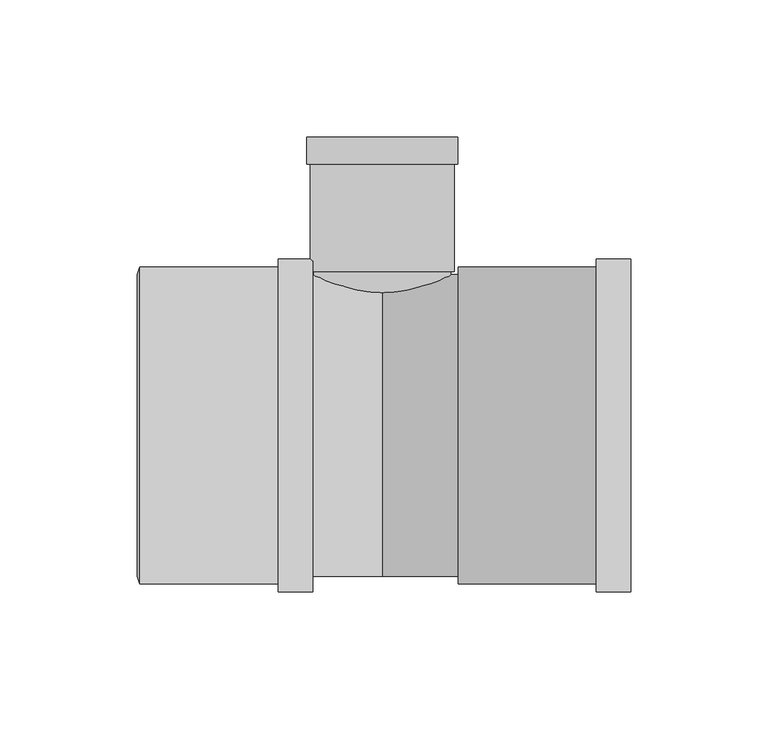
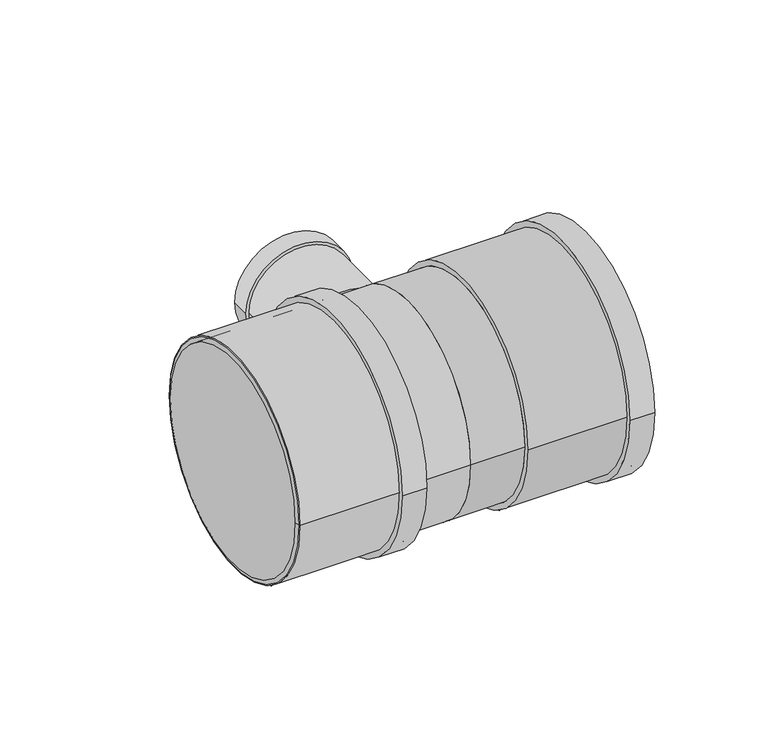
"""IFC4 building model written with IfcOpenShell, lengths in millimetres: pipe fitting geometry, Superdrain HTEA Branch : Superdrain HTEA Branch."""

from ifc_helpers import new_model, si_unit, point, frame, origin, origin_2d, place, context, project, spatial, polyline, circle_curve, trimmed, segment, composite_curve, outline, extrude, source, transform, mapped, element, save
from ifc_brep_helpers import plane_surface, revolved_surface, advanced_brep


def pipe_fitting_26660ebb(model_context):
    return source(origin(), model_context, "Body", "SolidModel", [
        extrude(outline(composite_curve([segment(trimmed(circle_curve(origin_2d(), 57.75), [point((57.75, 0.0))], [point((-57.75, 0.0))], False, "CARTESIAN"), True, "CONTINUOUS"), segment(trimmed(circle_curve(origin_2d(), 57.75), [point((-57.75, 0.0))], [point((57.75, 0.0))], False, "CARTESIAN"), True, "CONTINUOUS")], self_intersect=False), holes=[composite_curve([segment(trimmed(circle_curve(origin_2d(), 55.0), [point((55.0, 0.0))], [point((-55.0, 0.0))], True, "CARTESIAN"), True, "CONTINUOUS"), segment(trimmed(circle_curve(origin_2d(), 55.0), [point((-55.0, 0.0))], [point((55.0, 0.0))], True, "CARTESIAN"), True, "CONTINUOUS")], self_intersect=False)]), frame((-88.4, 0.0, 0.0), z_axis=(1.0, 0.0, 0.0), x_axis=(0.0, 1.0, 0.0)), (0.0, 0.0, 1.0), 63.0),
        extrude(outline(composite_curve([segment(trimmed(circle_curve(origin_2d(), 60.6375), [point((60.6375, 0.0))], [point((-60.6375, 0.0))], False, "CARTESIAN"), True, "CONTINUOUS"), segment(trimmed(circle_curve(origin_2d(), 60.6375), [point((-60.6375, 0.0))], [point((60.6375, 0.0))], False, "CARTESIAN"), True, "CONTINUOUS")], self_intersect=False), holes=[composite_curve([segment(trimmed(circle_curve(origin_2d(), 55.0), [point((55.0, 0.0))], [point((-55.0, 0.0))], True, "CARTESIAN"), True, "CONTINUOUS"), segment(trimmed(circle_curve(origin_2d(), 55.0), [point((-55.0, 0.0))], [point((55.0, 0.0))], True, "CARTESIAN"), True, "CONTINUOUS")], self_intersect=False)]), frame((-38.0, 0.0, 0.0), z_axis=(1.0, 0.0, 0.0), x_axis=(0.0, 1.0, 0.0)), (0.0, 0.0, 1.0), 12.6),
        advanced_brep(
        [(-89.4, 55.0, 0.0), (-89.4, -55.0, 0.0), (-88.4, 57.75, 0.0), (-88.4, -57.75, 0.0)],
        [
            (0, 1, circle_curve(frame((-89.4, 0.0, 0.0), z_axis=(-1.0, 0.0, 0.0), x_axis=(0.0, 1.0000000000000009, 0.0)), 55.0)),
            (1, 0, circle_curve(frame((-89.4, 0.0, 0.0), z_axis=(-1.0, 0.0, 0.0), x_axis=(0.0, -1.0000000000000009, 0.0)), 55.0)),
            (2, 3, circle_curve(frame((-88.4, 0.0, 0.0), z_axis=(1.0, 0.0, 0.0), x_axis=(0.0, -1.0000000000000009, 0.0)), 57.75)),
            (3, 2, circle_curve(frame((-88.4, 0.0, 0.0), z_axis=(1.0, 0.0, 0.0), x_axis=(0.0, 1.0000000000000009, 0.0)), 57.75)),
            (3, 1),
            (0, 2),
        ],
        [
            plane_surface(frame((-89.4, 0.0, 0.0), z_axis=(-1.0, 0.0, 0.0), x_axis=(0.0, 0.0, -1.0))),
            plane_surface(frame((-88.4, 0.0, 0.0), z_axis=(1.0, 0.0, 0.0), x_axis=(0.0, 0.0, -1.0))),
            revolved_surface(polyline([(-89.4, 54.99999999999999, 0.0), (-88.4, 57.75, 0.0)]), (-109.4, 0.0, 0.0), (1.0000000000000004, 0.0, 0.0)),
            revolved_surface(polyline([(-89.4, -54.99999999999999, 0.0), (-88.4, -57.75, 0.0)]), (-109.4, 0.0, 0.0), (1.0000000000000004, 0.0, 0.0)),
        ],
        [
            (0, [[1, 2]]),
            (1, [[3, 4]]),
            (2, [[-4, 5, -1, 6]]),
            (3, [[-3, -6, -2, -5]]),
        ],
    ),
        extrude(outline(composite_curve([segment(trimmed(circle_curve(origin_2d(), 57.75), [point((-57.75, 0.0))], [point((57.75, 0.0))], False, "CARTESIAN"), True, "CONTINUOUS"), segment(trimmed(circle_curve(origin_2d(), 57.75), [point((57.75, 0.0))], [point((-57.75, 0.0))], False, "CARTESIAN"), True, "CONTINUOUS")], self_intersect=False), holes=[composite_curve([segment(trimmed(circle_curve(origin_2d(), 55.0), [point((55.0, 0.0))], [point((-55.0, 0.0))], True, "CARTESIAN"), True, "CONTINUOUS"), segment(trimmed(circle_curve(origin_2d(), 55.0), [point((-55.0, 0.0))], [point((55.0, 0.0))], True, "CARTESIAN"), True, "CONTINUOUS")], self_intersect=False)]), frame((27.6, 0.0, 0.0), z_axis=(1.0, 0.0, 0.0), x_axis=(0.0, 1.0, 0.0)), (0.0, 0.0, 1.0), 63.0),
        extrude(outline(composite_curve([segment(trimmed(circle_curve(origin_2d(), 60.6375), [point((60.6375, 0.0))], [point((-60.6375, 0.0))], False, "CARTESIAN"), True, "CONTINUOUS"), segment(trimmed(circle_curve(origin_2d(), 60.6375), [point((-60.6375, 0.0))], [point((60.6375, 0.0))], False, "CARTESIAN"), True, "CONTINUOUS")], self_intersect=False), holes=[composite_curve([segment(trimmed(circle_curve(origin_2d(), 55.0), [point((55.0, 0.0))], [point((-55.0, 0.0))], True, "CARTESIAN"), True, "CONTINUOUS"), segment(trimmed(circle_curve(origin_2d(), 55.0), [point((-55.0, 0.0))], [point((55.0, 0.0))], True, "CARTESIAN"), True, "CONTINUOUS")], self_intersect=False)]), frame((78.0, 0.0, 0.0), z_axis=(1.0, 0.0, 0.0), x_axis=(0.0, 1.0, 0.0)), (0.0, 0.0, 1.0), 12.6),
        extrude(outline(composite_curve([segment(trimmed(circle_curve(origin_2d(), 25.0), [point((0.0, 25.0))], [point((0.0, -25.0))], False, "CARTESIAN"), True, "CONTINUOUS"), segment(trimmed(circle_curve(origin_2d(), 25.0), [point((0.0, -25.0))], [point((0.0, 25.0))], False, "CARTESIAN"), True, "CONTINUOUS")], self_intersect=False)), frame((0.0, 0.0, 0.0), z_axis=(0.0, 1.0, 0.0), x_axis=(0.0, 0.0, 1.0)), (0.0, 0.0, 1.0), 56.2),
        extrude(outline(composite_curve([segment(trimmed(circle_curve(origin_2d(), 55.0), [point((55.0, 0.0))], [point((-55.0, 0.0))], False, "CARTESIAN"), True, "CONTINUOUS"), segment(trimmed(circle_curve(origin_2d(), 55.0), [point((-55.0, 0.0))], [point((55.0, 0.0))], False, "CARTESIAN"), True, "CONTINUOUS")], self_intersect=False)), frame((-88.4, 0.0, 0.0), z_axis=(1.0, 0.0, 0.0), x_axis=(0.0, 1.0, 0.0)), (0.0, 0.0, 1.0), 88.4),
        extrude(outline(composite_curve([segment(trimmed(circle_curve(origin_2d(), 55.0), [point((-55.0, 0.0))], [point((55.0, 0.0))], False, "CARTESIAN"), True, "CONTINUOUS"), segment(trimmed(circle_curve(origin_2d(), 55.0), [point((55.0, 0.0))], [point((-55.0, 0.0))], False, "CARTESIAN"), True, "CONTINUOUS")], self_intersect=False)), frame((0.0, 0.0, 0.0), z_axis=(1.0, 0.0, 0.0), x_axis=(0.0, 1.0, 0.0)), (0.0, 0.0, 1.0), 27.6),
        extrude(outline(composite_curve([segment(trimmed(circle_curve(origin_2d(), 27.5625), [point((0.0, 27.5625))], [point((0.0, -27.5625))], False, "CARTESIAN"), True, "CONTINUOUS"), segment(trimmed(circle_curve(origin_2d(), 27.5625), [point((0.0, -27.5625))], [point((0.0, 27.5625))], False, "CARTESIAN"), True, "CONTINUOUS")], self_intersect=False), holes=[composite_curve([segment(trimmed(circle_curve(origin_2d(), 25.0), [point((0.0, 25.0))], [point((0.0, -25.0))], True, "CARTESIAN"), True, "CONTINUOUS"), segment(trimmed(circle_curve(origin_2d(), 25.0), [point((0.0, -25.0))], [point((0.0, 25.0))], True, "CARTESIAN"), True, "CONTINUOUS")], self_intersect=False)]), frame((0.0, 95.4, 0.0), z_axis=(0.0, 1.0, 0.0), x_axis=(0.0, 0.0, 1.0)), (0.0, 0.0, 1.0), 9.8),
        extrude(outline(composite_curve([segment(trimmed(circle_curve(origin_2d(), 26.25), [point((0.0, 26.25))], [point((0.0, -26.25))], False, "CARTESIAN"), True, "CONTINUOUS"), segment(trimmed(circle_curve(origin_2d(), 26.25), [point((0.0, -26.25))], [point((0.0, 26.25))], False, "CARTESIAN"), True, "CONTINUOUS")], self_intersect=False), holes=[composite_curve([segment(trimmed(circle_curve(origin_2d(), 25.0), [point((0.0, 25.0))], [point((0.0, -25.0))], True, "CARTESIAN"), True, "CONTINUOUS"), segment(trimmed(circle_curve(origin_2d(), 25.0), [point((0.0, -25.0))], [point((0.0, 25.0))], True, "CARTESIAN"), True, "CONTINUOUS")], self_intersect=False)]), frame((0.0, 56.2, 0.0), z_axis=(0.0, 1.0, 0.0), x_axis=(0.0, 0.0, 1.0)), (0.0, 0.0, 1.0), 49.0),
    ])


if __name__ == "__main__":
    model = new_model("IFC4")
    model_context = context("Model", 3, world=origin())
    ifc_project = project(units=[si_unit("LENGTHUNIT", "METRE", prefix="MILLI")], contexts=[model_context])
    site = spatial("IfcSite", under=ifc_project)
    building = spatial("IfcBuilding", under=site)
    placement = place(None, origin())
    pipe_fitting_shape = pipe_fitting_26660ebb(model_context)
    element("IfcPipeFitting", 1, ObjectType="Superdrain HTEA Branch : Superdrain HTEA Branch", at=placement, inside=building, context=model_context, shape_type="MappedRepresentation", body=[
        mapped(pipe_fitting_shape, transform((0.0, 0.0, 0.0), x_axis=(1.0, 0.0, 0.0), y_axis=(0.0, 1.0, 0.0), z_axis=(0.0, 0.0, 1.0))),
    ])
    save(model, "model.ifc")
